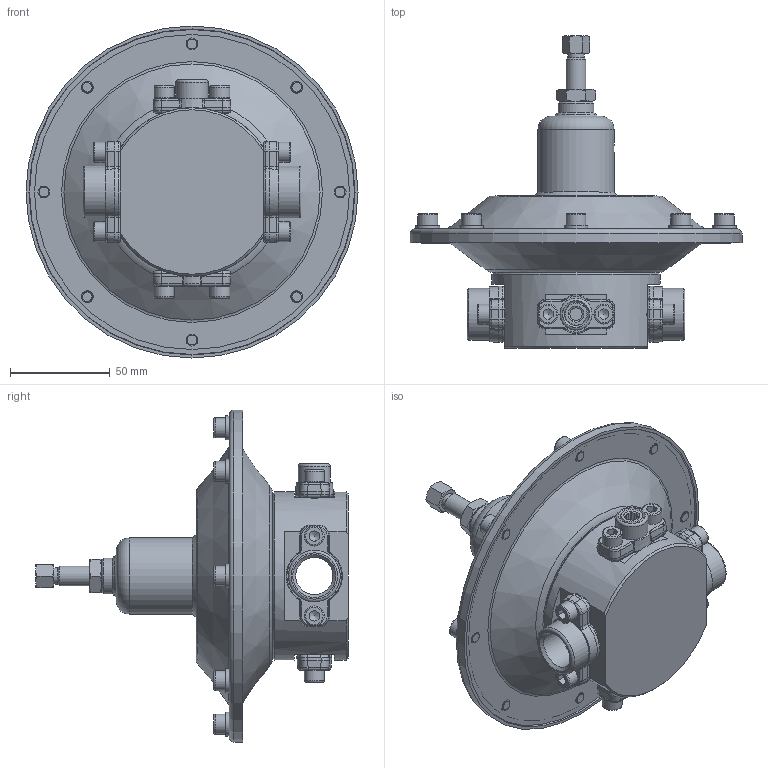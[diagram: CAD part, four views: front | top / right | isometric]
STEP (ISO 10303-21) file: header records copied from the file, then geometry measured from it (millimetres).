
FILE_DESCRIPTION(/* description */ (''),/* implementation_level */ '2;1');
FILE_NAME(/* name */ 'B-D3100-04_01.step',/* time_stamp */ '2026-06-08T11:44:07+02:00',/* author */ (''),/* organization */ (''),/* preprocessor_version */ 'ST-DEVELOPER v20.1',/* originating_system */ 'Autodesk Translation Framework v15.8.0.0',/* authorisation */ '');
FILE_SCHEMA (('AUTOMOTIVE_DESIGN { 1 0 10303 214 3 1 1 }'));
Length unit declared in the file: millimetre
Products named in the file (30): B-D3100-04_01; 0DC10410; 0DC10410_1; 0DC10410_2; 0DC10410_3; 0DC10410_4; 0DC10410_5; 0DC10410_6; 0DC10410_7; P43163; P43163_1; P43163_2; P43163_3; P43163_4; P43163_5; P20649; P37129; P37131; C51009; C51009_1; P64042; P21039; P38058; P43123; 0DN11400; P64038; P34243; 0DC10405; 0DQ10400; P37128
Assembly tree (44 placements, depth 3):
  B-D3100-04_01
    0DQ10400  x8
    0DC10405  x8
    0DC10410
    0DC10410_1
    0DC10410_2
    0DC10410_3
    0DC10410_4
    0DC10410_5
    0DC10410_6
    0DC10410_7
    P43163
    P43163_1
    P43163_2
    P43163_3
    P43163_4
    P43163_5
    P20649
    P37129
    P37131
    C51009
      C51009_1
      P64042
      P21039
      P38058
    P43123
    0DN11400
    P64038
    P37128  x2
    P34243
Bounding box: 166.5 x 156.71 x 166.5 mm (x, y, z)
Volume: 148961.3 mm3; surface area: 162854.4 mm2
Topology: 44 solids, 44 shells, 859 faces, 2043 edges, 1299 vertices
Faces by surface type: plane 307, cylinder 224, cone 141, torus 107, bspline 80
Full cylindrical faces by diameter (mm): 4.134 x1, 4.917 x16, 5.1 x2, 5.6 x1, 6 x16, 6.4 x8, 6.5 x16, 7.2 x1, 7.7 x2, 8.3 x1, 8.917 x1, 10 x18, 11 x1, 11.2 x2, 11.445 x1, 12 x8, 13.04 x1, 14.9 x1, 15 x1, 16.1 x1, 18 x2, 18.631 x2, 19 x2, 19.5 x1, 20.3 x2, 23.8 x2, 26 x2, 37 x1, 38.2 x2, 38.5 x1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
Entity records: 23007 total; most frequent: CARTESIAN_POINT 6857, DIRECTION 3246, ORIENTED_EDGE 3122, EDGE_CURVE 1561, AXIS2_PLACEMENT_3D 1384, VERTEX_POINT 1003, EDGE_LOOP 772, CIRCLE 677
